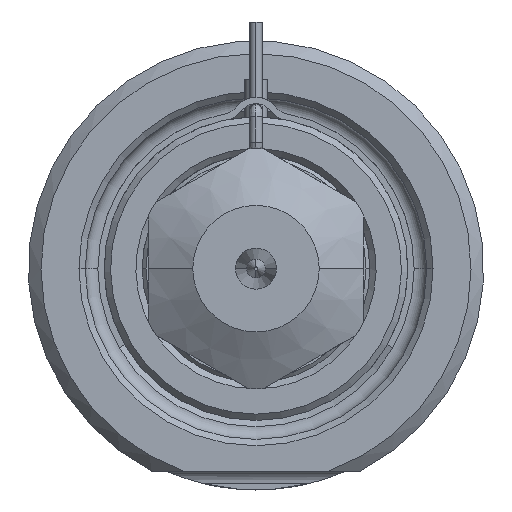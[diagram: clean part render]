
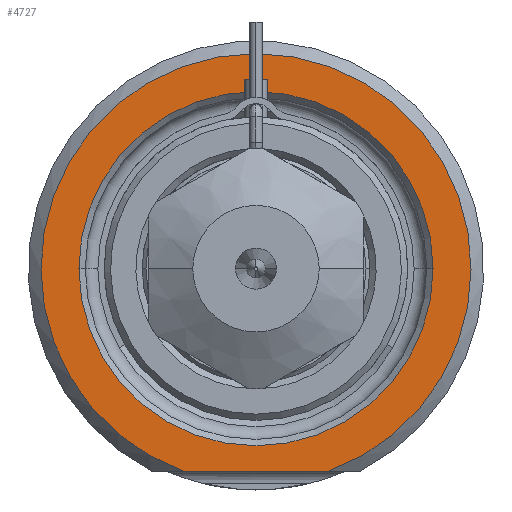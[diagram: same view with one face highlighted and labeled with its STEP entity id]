
A CAD part, front view. The second image highlights one B-rep face of the part: STEP entity #4727.
In plain terms, the highlighted planar face has unit normal (0, -1, 0).
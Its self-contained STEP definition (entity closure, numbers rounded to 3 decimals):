
#1137=CARTESIAN_POINT('',(0.,0.,0.));
#1138=DIRECTION('',(0.,-1.,0.));
#1139=DIRECTION('',(0.338,0.,-0.941));
#1140=AXIS2_PLACEMENT_3D('',#1137,#1138,#1139);
#1161=DIRECTION('',(1.,0.,0.));
#1162=VECTOR('',#1161,11.489);
#1163=CARTESIAN_POINT('',(-5.745,0.,-16.));
#1164=LINE('',#1163,#1162);
#1165=CARTESIAN_POINT('',(0.,0.,0.));
#1166=DIRECTION('',(0.,1.,0.));
#1167=DIRECTION('',(-1.,0.,0.));
#1168=AXIS2_PLACEMENT_3D('',#1165,#1166,#1167);
#1170=CARTESIAN_POINT('',(0.,0.,0.));
#1171=DIRECTION('',(0.,1.,0.));
#1172=DIRECTION('',(1.,0.,0.));
#1173=AXIS2_PLACEMENT_3D('',#1170,#1171,#1172);
#3042=CARTESIAN_POINT('',(-14.,0.,0.));
#3043=CARTESIAN_POINT('',(14.,0.,0.));
#3044=VERTEX_POINT('',#3042);
#3045=VERTEX_POINT('',#3043);
#3082=CARTESIAN_POINT('',(-5.745,0.,-16.));
#3083=CARTESIAN_POINT('',(5.745,0.,-16.));
#3084=VERTEX_POINT('',#3082);
#3085=VERTEX_POINT('',#3083);
#4712=CARTESIAN_POINT('',(0.,0.,0.));
#4713=DIRECTION('',(0.,-1.,0.));
#4714=DIRECTION('',(1.,0.,0.));
#4715=AXIS2_PLACEMENT_3D('',#4712,#4713,#4714);
#4716=PLANE('',#4715);
#4717=ORIENTED_EDGE('',*,*,#4644,.F.);
#4718=ORIENTED_EDGE('',*,*,#4704,.F.);
#4719=EDGE_LOOP('',(#4717,#4718));
#4720=FACE_OUTER_BOUND('',#4719,.F.);
#4722=ORIENTED_EDGE('',*,*,#4721,.F.);
#4724=ORIENTED_EDGE('',*,*,#4723,.F.);
#4725=EDGE_LOOP('',(#4722,#4724));
#4726=FACE_BOUND('',#4725,.F.);
#4727=ADVANCED_FACE('',(#4720,#4726),#4716,.T.);
#1141=CIRCLE('',#1140,17.);
#1169=CIRCLE('',#1168,14.);
#1174=CIRCLE('',#1173,14.);
#4644=EDGE_CURVE('',#3084,#3085,#1164,.T.);
#4704=EDGE_CURVE('',#3085,#3084,#1141,.T.);
#4721=EDGE_CURVE('',#3044,#3045,#1169,.T.);
#4723=EDGE_CURVE('',#3045,#3044,#1174,.T.);
